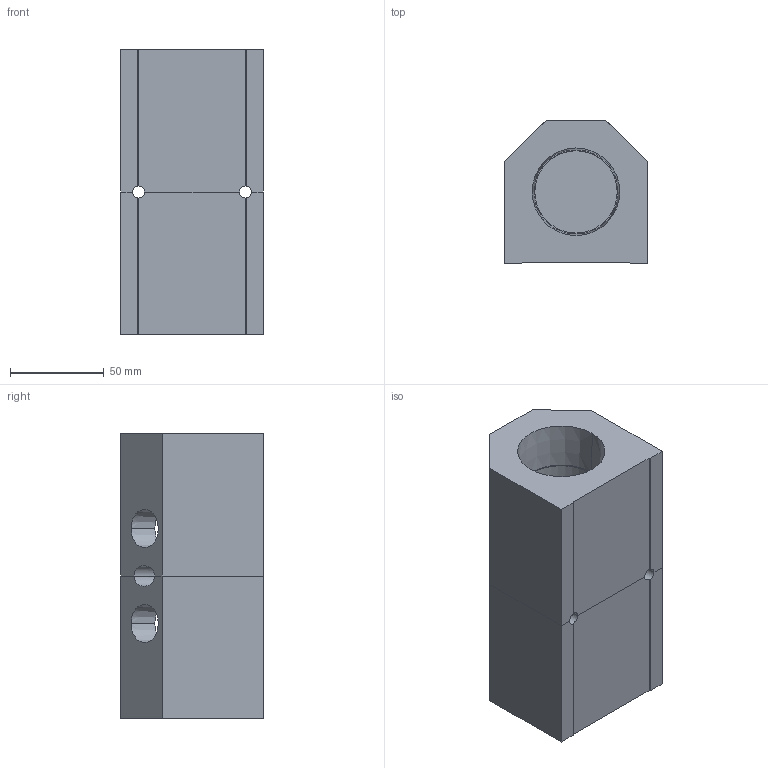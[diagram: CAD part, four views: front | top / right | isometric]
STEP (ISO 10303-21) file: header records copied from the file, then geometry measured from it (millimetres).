
FILE_DESCRIPTION (( 'STEP AP214' ), '1' );
FILE_NAME ('ALM2BCD-N8N24-152RB.step', '2022-02-07T09:39:26', ( '' ), ( '' ), 'SwSTEP 2.0', 'SolidWorks 2020', '' );
FILE_SCHEMA (( 'AUTOMOTIVE_DESIGN' ));
Length unit declared in the file: millimetre
Products named in the file (1): ALM2BCD-N8N24-152RB
Bounding box: 76.2 x 76.2 x 152 mm (x, y, z)
Volume: 531744.2 mm3; surface area: 88028.2 mm2
Topology: 2 solids, 2 shells, 356 faces, 949 edges, 632 vertices
Faces by surface type: plane 240, bspline 84, cylinder 16, cone 16
Entity records: 20038 total; most frequent: CARTESIAN_POINT 8456, ORIENTED_EDGE 1898, DIRECTION 1341, EDGE_CURVE 949, VECTOR 699, LINE 699, VERTEX_POINT 632, EDGE_LOOP 403
